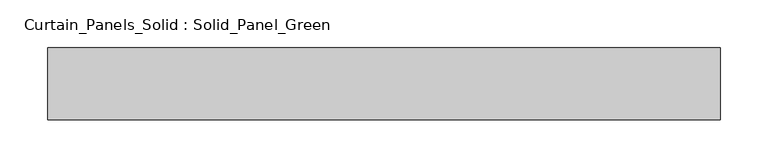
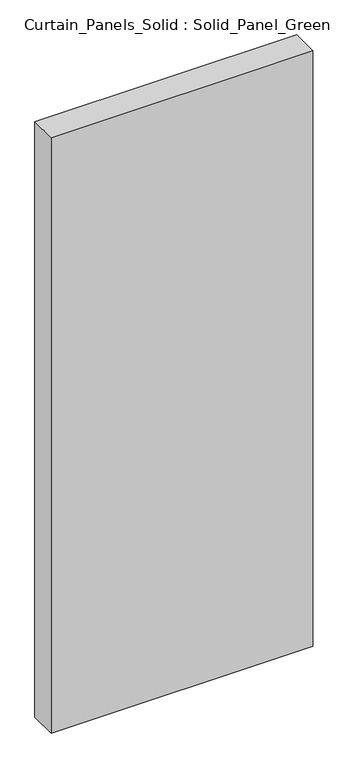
"""IFC4 building model written with IfcOpenShell, lengths in millimetres: plate geometry, Curtain_Panels_Solid : Solid_Panel_Green."""

from ifc_helpers import new_model, si_unit, origin, origin_with_axes, place, context, project, spatial, polyline, outline, extrude, source, transform, mapped, element, save


def curtain_panels_solid_solid_panel_green_c59e5148(model_context):
    return source(origin(), model_context, "Body", "SweptSolid", [
        extrude(outline(polyline([(351.2499999, -25.0), (-351.2499999, -25.0), (-351.2499999, 50.0), (351.2499999, 50.0), (351.2499999, -25.0)])), origin_with_axes(), (0.0, 0.0, 1.0), 1690.0),
    ])


if __name__ == "__main__":
    model = new_model("IFC4")
    model_context = context("Model", 3, world=origin())
    ifc_project = project(units=[si_unit("LENGTHUNIT", "METRE", prefix="MILLI")], contexts=[model_context])
    site = spatial("IfcSite", under=ifc_project)
    building = spatial("IfcBuilding", under=site)
    placement = place(None, origin())
    curtain_panels_solid_solid_panel_green_shape = curtain_panels_solid_solid_panel_green_c59e5148(model_context)
    element("IfcPlate", 1, ObjectType="Curtain_Panels_Solid : Solid_Panel_Green", at=placement, inside=building, context=model_context, shape_type="MappedRepresentation", body=[
        mapped(curtain_panels_solid_solid_panel_green_shape, transform((0.0, 0.0, 0.0), x_axis=(1.0, 0.0, 0.0), y_axis=(0.0, 1.0, 0.0), z_axis=(0.0, 0.0, 1.0))),
    ])
    save(model, "model.ifc")
